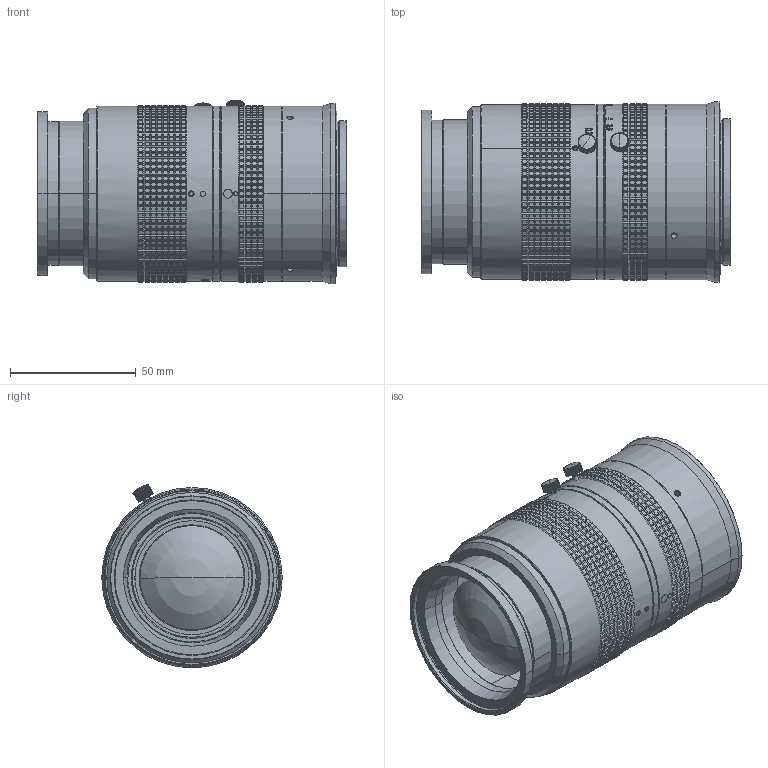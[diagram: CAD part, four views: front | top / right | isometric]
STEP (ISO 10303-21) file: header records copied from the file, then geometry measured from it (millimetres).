
FILE_DESCRIPTION((''),'2;1');
FILE_NAME('200_ASM','2025-06-30T',('Administrator'),(''),'PRO/ENGINEER BY PARAMETRIC TECHNOLOGY CORPORATION, 2010020','PRO/ENGINEER BY PARAMETRIC TECHNOLOGY CORPORATION, 2010020','');
FILE_SCHEMA(('AUTOMOTIVE_DESIGN_CC2 { 1 2 10303 214 -1 1 5 2 }'));
Length unit declared in the file: millimetre
Products named in the file (84): 503_AF0; 501_AF0; 304_AF0; 305_AF0; 303_AF0; 302_AF0; 512_AF0; 301_AF0; 511_AF0; 201_AF0_ASM; 502_AF0; MA115-02-13_AF0; MA117-02-19________AF0; MA117-02-19________AF1; MA122-02-03_AF0; MA122-01-01_AF0_ASM; MA117-02-19________AF2; MA117-02-19________AF3; MA122-02-03_AF1; MA122-01-01_AF1_ASM; MA117-02-19________AF4; MA117-02-19________AF5; MA122-02-03_AF2; MA122-01-01_AF2_ASM; MA117-02-19________AF6; MA117-02-19________AF7; MA122-02-03_AF3; MA122-01-01_AF3_ASM; MA122-02-04_AF0; MA117-02-19________AF8; MA117-02-19________AF9; MA122-02-03_AF4; MA122-01-01_AF4_ASM; MA117-02-19________AF10; MA117-02-19________AF11; MA122-02-03_AF5; MA122-01-01_AF5_ASM; MA117-02-19________AF12; MA117-02-19________AF13; MA122-02-03_AF6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
Assembly tree (83 placements, depth 6):
  200_ASM
    503_AF0
    201_AF0_ASM
      501_AF0
      304_AF0
      305_AF0
      303_AF0
      302_AF0
      512_AF0
      301_AF0
      511_AF0
    202_AF0_ASM
      502_AF0
      MA122-00-02_AF0_ASM
        ASM0002_AF0_ASM
          MA115-02-13_AF0
          MA122-01-01_AF0_ASM
            MA117-02-19________AF0
            MA117-02-19________AF1
            MA122-02-03_AF0
          MA122-01-01_AF1_ASM
            MA117-02-19________AF2
            MA117-02-19________AF3
            MA122-02-03_AF1
          MA122-01-01_AF2_ASM
            MA117-02-19________AF4
            MA117-02-19________AF5
            MA122-02-03_AF2
          MA122-01-01_AF3_ASM
            MA117-02-19________AF6
            MA117-02-19________AF7
            MA122-02-03_AF3
          MA122-02-04_AF0
          MA122-01-01_AF4_ASM
            MA117-02-19________AF8
            MA117-02-19________AF9
            MA122-02-03_AF4
          MA122-01-01_AF5_ASM
            MA117-02-19________AF10
            MA117-02-19________AF11
            MA122-02-03_AF5
          MA122-01-01_AF6_ASM
            MA117-02-19________AF12
            MA117-02-19________AF13
            MA122-02-03_AF6
          MA122-01-01_AF7_ASM
            MA117-02-19________AF14
            MA117-02-19________AF15
            MA122-02-03_AF7
          MA122-02-05_AF0
          MA122-01-01_AF8_ASM
            MA117-02-19________AF16
            MA117-02-19________AF17
            MA122-02-03_AF8
          MA122-01-01_AF9_ASM
            MA117-02-19________AF18
            MA117-02-19________AF19
            MA122-02-03_AF9
        _MA122-00-02
      306_AF0
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Bounding box: 123 x 71.61 x 72.95 mm (x, y, z)
Volume: 84214.1 mm3; surface area: 99268.5 mm2
Topology: 25 solids, 25 shells, 7196 faces, 15793 edges, 8730 vertices
Faces by surface type: plane 2651, cone 2547, cylinder 1450, bspline 353, extrusion 185, sphere 10
Entity records: 269141 total; most frequent: CARTESIAN_POINT 75423, ORIENTED_EDGE 31562, DIRECTION 28529, EDGE_CURVE 15781, PRESENTATION_STYLE_ASSIGNMENT 15163, STYLED_ITEM 15119, CURVE_STYLE 15110, AXIS2_PLACEMENT_3D 11667
